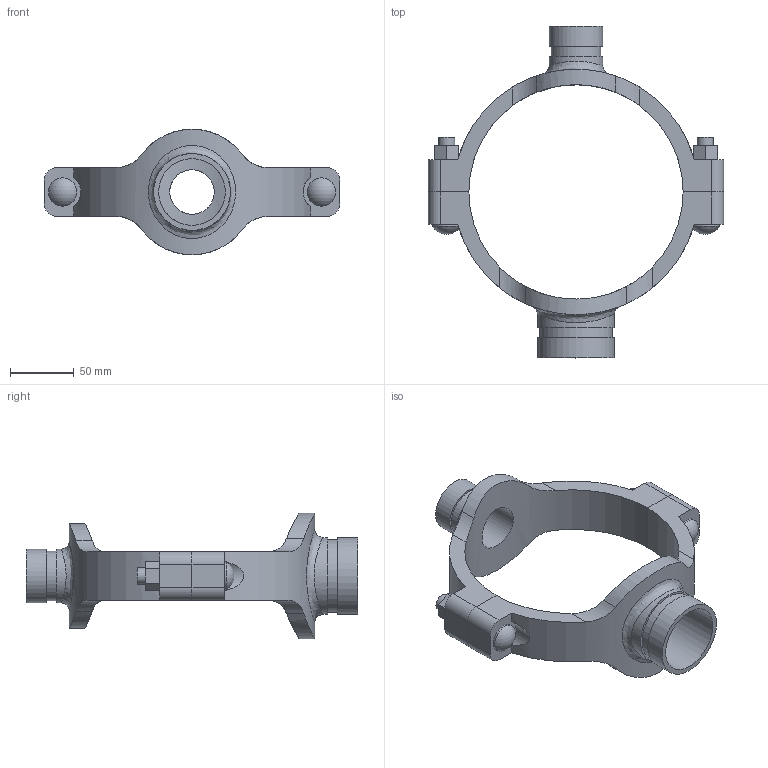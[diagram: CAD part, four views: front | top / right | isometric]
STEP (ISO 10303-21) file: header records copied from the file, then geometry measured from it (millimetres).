
FILE_DESCRIPTION(/* description */ ('VIC MECH-T BRANCH OUTLET CROSS STYLE 920N (GRVD)','CAx-IF Rec.Pracs.---Representation and Presentation of Product Manufacturing Information (PMI)---4.0---2014-10-13'),/* implementation_level */ '2;1');
FILE_NAME(/* name */ 'C:\Users\Vjadhav\AppData\Roaming\Autodesk\ApplicationPlugins\Back Up\Victaulic_IPS_Mechanical-Cross Outlet_Style 920N (OGS)\Victaulic_IPS_Mechanical-Cross Outlet_06.0x01.25x02.0 (150x32x50).stp',/* time_stamp */ '2020-08-06T19:44:40+05:00',/* author */ ('Vjadhav'),/* organization */ ('Victaulic'),/* preprocessor_version */ 'ST-DEVELOPER v17.2',/* originating_system */ 'Autodesk Inventor 2019',/* authorisation */ '');
FILE_SCHEMA (('AP242_MANAGED_MODEL_BASED_3D_ENGINEERING_MIM_LF { 1 0 10303 442 1 1 4 }'));
Length unit declared in the file: inch
Products named in the file (3): 920NG-06.0x01.25x02.0; 920NG-06.0x01.25; 920NG-06.0x02.0
Assembly tree (2 placements, depth 2):
  920NG-06.0x01.25x02.0
    920NG-06.0x01.25
    920NG-06.0x02.0
Bounding box: 231.9 x 260.6 x 98.55 mm (x, y, z)
Volume: 419161.1 mm3; surface area: 113812.5 mm2
Topology: 2 solids, 2 shells, 108 faces, 274 edges, 186 vertices
Faces by surface type: plane 54, cylinder 50, sphere 2, bspline 2
Full cylindrical faces by diameter (mm): 12.7 x4, 22.225 x2, 34.925 x1, 38.989 x1, 42.164 x2, 52.387 x1, 57.15 x1, 60.325 x2
Entity records: 4350 total; most frequent: CARTESIAN_POINT 1469, DIRECTION 552, ORIENTED_EDGE 548, EDGE_CURVE 274, AXIS2_PLACEMENT_3D 201, VERTEX_POINT 186, LINE 150, VECTOR 150
